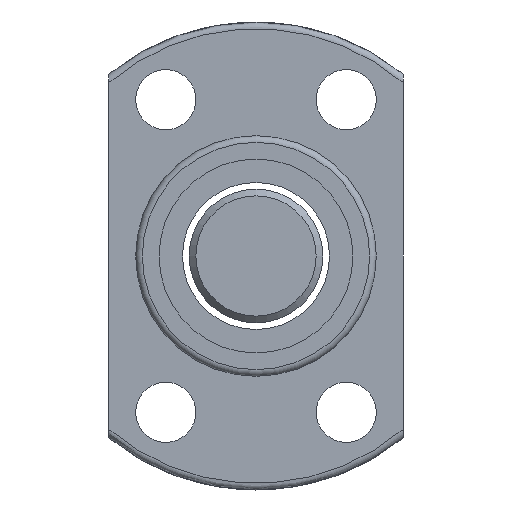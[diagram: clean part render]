
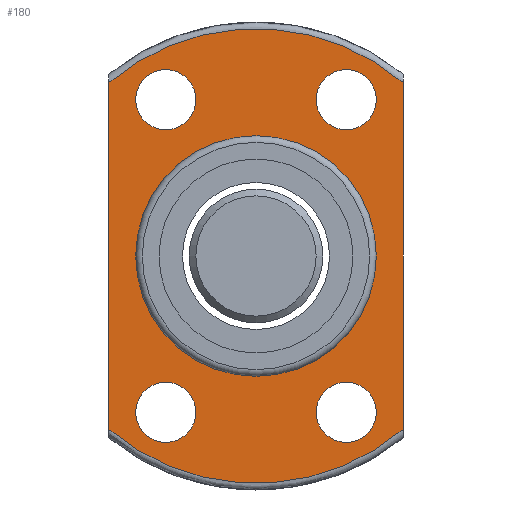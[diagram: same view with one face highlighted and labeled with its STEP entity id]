
A CAD part, left-side view. The second image highlights one B-rep face of the part: STEP entity #180.
In plain terms, the highlighted planar face has unit normal (-1, 0, 0).
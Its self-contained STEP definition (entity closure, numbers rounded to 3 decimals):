
#97=LINE('',#939,#105);
#98=LINE('',#940,#106);
#105=VECTOR('',#715,1.);
#106=VECTOR('',#716,1.);
#138=PLANE('',#607);
#156=FACE_OUTER_BOUND('',#289,.T.);
#180=ADVANCED_FACE('',(#228,#229,#230,#231,#232,#156),#138,.F.);
#228=FACE_BOUND('',#284,.T.);
#229=FACE_BOUND('',#285,.T.);
#230=FACE_BOUND('',#286,.T.);
#231=FACE_BOUND('',#287,.T.);
#232=FACE_BOUND('',#288,.T.);
#284=EDGE_LOOP('',(#361));
#285=EDGE_LOOP('',(#362));
#286=EDGE_LOOP('',(#363));
#287=EDGE_LOOP('',(#364));
#288=EDGE_LOOP('',(#365));
#289=EDGE_LOOP('',(#366,#367,#368,#369));
#361=ORIENTED_EDGE('',*,*,#504,.F.);
#362=ORIENTED_EDGE('',*,*,#505,.T.);
#363=ORIENTED_EDGE('',*,*,#506,.T.);
#364=ORIENTED_EDGE('',*,*,#507,.T.);
#365=ORIENTED_EDGE('',*,*,#508,.T.);
#366=ORIENTED_EDGE('',*,*,#509,.T.);
#367=ORIENTED_EDGE('',*,*,#510,.F.);
#368=ORIENTED_EDGE('',*,*,#500,.T.);
#369=ORIENTED_EDGE('',*,*,#511,.T.);
#455=VERTEX_POINT('',#882);
#456=VERTEX_POINT('',#883);
#459=VERTEX_POINT('',#927);
#460=VERTEX_POINT('',#929);
#461=VERTEX_POINT('',#931);
#462=VERTEX_POINT('',#933);
#463=VERTEX_POINT('',#935);
#464=VERTEX_POINT('',#937);
#465=VERTEX_POINT('',#938);
#500=EDGE_CURVE('',#455,#456,#549,.T.);
#504=EDGE_CURVE('',#459,#459,#551,.T.);
#505=EDGE_CURVE('',#460,#460,#552,.T.);
#506=EDGE_CURVE('',#461,#461,#553,.T.);
#507=EDGE_CURVE('',#462,#462,#554,.T.);
#508=EDGE_CURVE('',#463,#463,#555,.T.);
#509=EDGE_CURVE('',#464,#465,#556,.T.);
#510=EDGE_CURVE('',#455,#465,#97,.T.);
#511=EDGE_CURVE('',#456,#464,#98,.T.);
#549=CIRCLE('',#598,17.);
#551=CIRCLE('',#601,9.);
#552=CIRCLE('',#602,2.25);
#553=CIRCLE('',#603,2.25);
#554=CIRCLE('',#604,2.25);
#555=CIRCLE('',#605,2.25);
#556=CIRCLE('',#606,17.);
#598=AXIS2_PLACEMENT_3D('',#881,#697,#698);
#601=AXIS2_PLACEMENT_3D('',#926,#703,#704);
#602=AXIS2_PLACEMENT_3D('',#928,#705,#706);
#603=AXIS2_PLACEMENT_3D('',#930,#707,#708);
#604=AXIS2_PLACEMENT_3D('',#932,#709,#710);
#605=AXIS2_PLACEMENT_3D('',#934,#711,#712);
#606=AXIS2_PLACEMENT_3D('',#936,#713,#714);
#607=AXIS2_PLACEMENT_3D('',#941,#717,#718);
#697=DIRECTION('',(-1.,0.,0.));
#698=DIRECTION('',(0.,-1.,0.));
#703=DIRECTION('',(-1.,0.,0.));
#704=DIRECTION('',(0.,-1.,0.));
#705=DIRECTION('',(1.,0.,0.));
#706=DIRECTION('',(0.,1.,0.));
#707=DIRECTION('',(1.,0.,0.));
#708=DIRECTION('',(0.,1.,0.));
#709=DIRECTION('',(1.,0.,0.));
#710=DIRECTION('',(0.,1.,0.));
#711=DIRECTION('',(1.,0.,0.));
#712=DIRECTION('',(0.,1.,0.));
#713=DIRECTION('',(-1.,0.,0.));
#714=DIRECTION('',(0.,-1.,0.));
#715=DIRECTION('',(0.,0.,1.));
#716=DIRECTION('',(0.,0.,1.));
#717=DIRECTION('',(1.,0.,0.));
#718=DIRECTION('',(0.,1.,0.));
#881=CARTESIAN_POINT('',(-13.,0.,0.));
#882=CARTESIAN_POINT('',(-13.,11.,-12.961));
#883=CARTESIAN_POINT('',(-13.,-11.,-12.961));
#926=CARTESIAN_POINT('',(-13.,0.,0.));
#927=CARTESIAN_POINT('',(-13.,-9.,0.));
#928=CARTESIAN_POINT('',(-13.,6.75,11.69));
#929=CARTESIAN_POINT('',(-13.,9.,11.69));
#930=CARTESIAN_POINT('',(-13.,-6.75,11.69));
#931=CARTESIAN_POINT('',(-13.,-4.5,11.69));
#932=CARTESIAN_POINT('',(-13.,-6.75,-11.69));
#933=CARTESIAN_POINT('',(-13.,-4.5,-11.69));
#934=CARTESIAN_POINT('',(-13.,6.75,-11.69));
#935=CARTESIAN_POINT('',(-13.,9.,-11.69));
#936=CARTESIAN_POINT('',(-13.,0.,0.));
#937=CARTESIAN_POINT('',(-13.,-11.,12.961));
#938=CARTESIAN_POINT('',(-13.,11.,12.961));
#939=CARTESIAN_POINT('',(-13.,11.,-22.634));
#940=CARTESIAN_POINT('',(-13.,-11.,-22.634));
#941=CARTESIAN_POINT('',(-13.,13.,0.));
